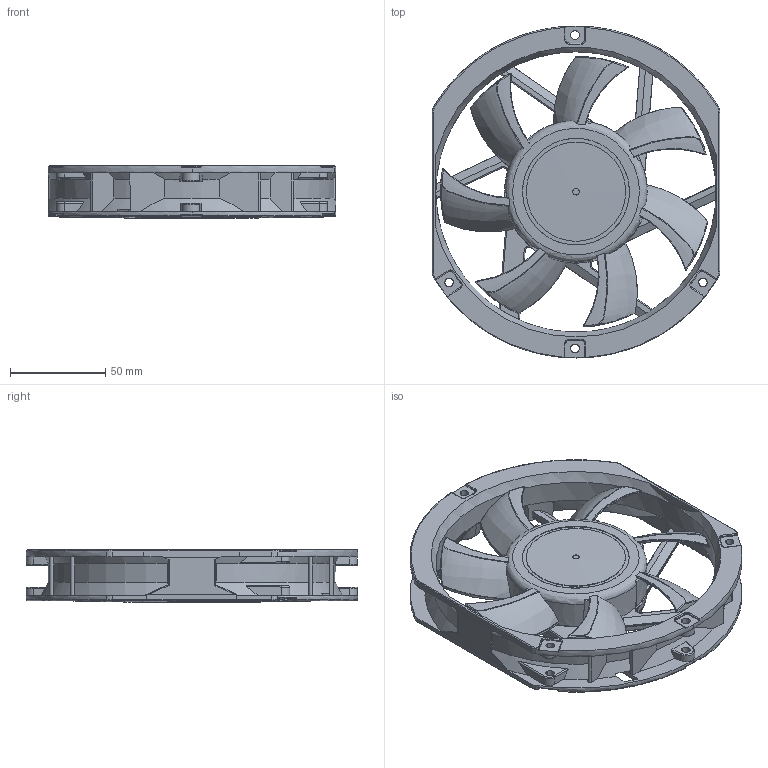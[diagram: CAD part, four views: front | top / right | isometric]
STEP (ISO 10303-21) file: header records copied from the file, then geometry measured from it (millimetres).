
FILE_DESCRIPTION(/* description */ (''),/* implementation_level */ '2;1');
FILE_NAME(/* name */ '17225胶框.stp',/* time_stamp */ '2026-09-02T09:36:25+08:00',/* author */ (''),/* organization */ (''),/* preprocessor_version */ 'ST-DEVELOPER v16',/* originating_system */ 'SIEMENS PLM Software NX 10.0',/* authorisation */ '');
FILE_SCHEMA (('CONFIG_CONTROL_DESIGN'));
Length unit declared in the file: millimetre
Products named in the file (1): 17225K1-A246A_stp
Bounding box: 150.75 x 173.96 x 27.29 mm (x, y, z)
Volume: 113819.8 mm3; surface area: 95575.2 mm2
Topology: 2 solids, 2 shells, 874 faces, 2346 edges, 1476 vertices
Faces by surface type: bspline 252, plane 214, cone 147, cylinder 122, torus 95, sphere 27, revolution 9, extrusion 8
Full cylindrical faces by diameter (mm): 3.5 x1, 11.055 x1, 12.5 x1, 12.864 x1, 13.065 x1, 14.8 x1, 52.01 x1, 71.391 x1
Entity records: 49385 total; most frequent: CARTESIAN_POINT 30404, ORIENTED_EDGE 4610, DIRECTION 3054, EDGE_CURVE 2305, VERTEX_POINT 1462, AXIS2_PLACEMENT_3D 1277, B_SPLINE_CURVE_WITH_KNOTS 1087, EDGE_LOOP 935
